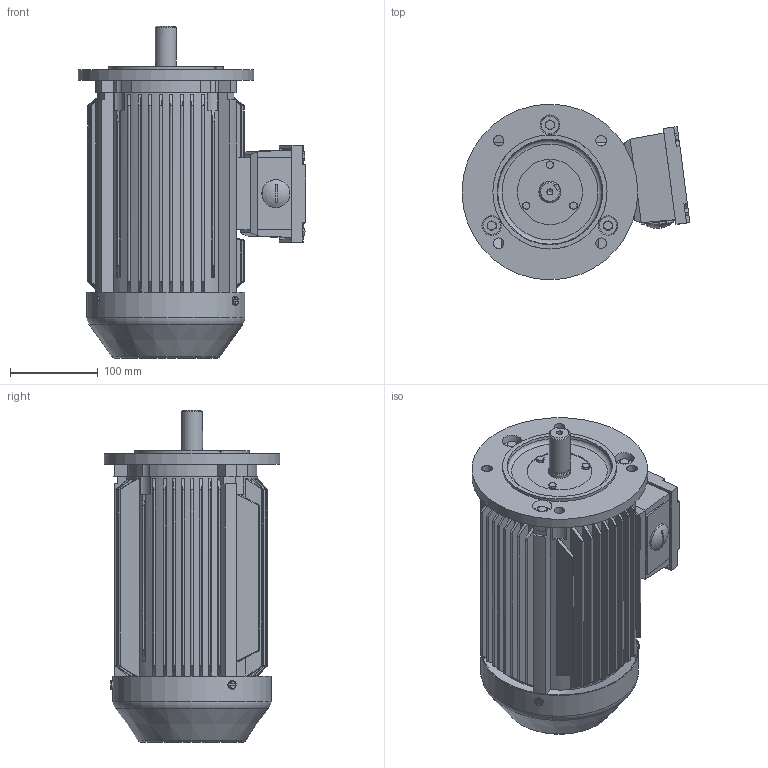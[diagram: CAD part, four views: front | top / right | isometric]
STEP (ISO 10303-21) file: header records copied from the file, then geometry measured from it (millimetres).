
FILE_DESCRIPTION(/* description */ (''),/* implementation_level */ '2;1');
FILE_NAME(/* name */ 'C:/Users/luigi_zhang/Desktop/temp/New folder/TE3-90L B5V1 .step',/* time_stamp */ '2020-06-22T08:58:50+10:00',/* author */ (''),/* organization */ (''),/* preprocessor_version */ 'ST-DEVELOPER v18.1',/* originating_system */ 'Autodesk Translation Framework v9.3.0.1241',/* authorisation */ '');
FILE_SCHEMA (('AUTOMOTIVE_DESIGN { 1 0 10303 214 3 1 1 }'));
Products named in the file (9): (Unsaved); YE3-90L B5 P24»ú×ù; TE3-90 Í¹Ôµ¶Ë¸Ç£¨
B5B35£©; YE3-90 P24ÖáÉì; hexagon head bolts--product grade c gb_GB_FASTENER_BOLT_HHBC M6X45-C; hexagon head bolts--product grade c gb_GB_FASTENER_BOLT_HHBC M5X25-N; TE3-90~100½ÓÏßºÐ; TE3-80~100 P24 ½ÓÏßºÐ×ù; TE3-80~100 ½ÓÏßºÐ¸Ç
Assembly tree (12 placements, depth 3):
  (Unsaved)
    YE3-90L B5 P24»ú×ù
    TE3-90 Í¹Ôµ¶Ë¸Ç£¨
B5B35£©
    YE3-90 P24ÖáÉì
    hexagon head bolts--product grade c gb_GB_FASTENER_BOLT_HHBC M6X45-C  x3
    hexagon head bolts--product grade c gb_GB_FASTENER_BOLT_HHBC M5X25-N  x3
    TE3-90~100½ÓÏßºÐ
      TE3-80~100 P24 ½ÓÏßºÐ×ù
      TE3-80~100 ½ÓÏßºÐ¸Ç
Bounding box: 259.37 x 200 x 378 mm (x, y, z)
Volume: 6556069.7 mm3; surface area: 653636.4 mm2
Topology: 12 solids, 12 shells, 1364 faces, 3479 edges, 2287 vertices
Faces by surface type: plane 750, cylinder 466, cone 77, bspline 60, torus 10, sphere 1
Full cylindrical faces by diameter (mm): 4.795 x4, 5 x3, 5.265 x4, 5.8 x7, 6 x3, 6.499 x1, 6.8 x1, 7 x3, 8 x1, 9.333 x4, 9.5 x6, 12 x4, 23.5 x1, 24 x1, 25 x2, 30 x1, 32 x1, 74 x1, 130 x1, 140 x1, 178 x1, 180 x1, 200 x1
Entity records: 117567 total; most frequent: CARTESIAN_POINT 85704, ORIENTED_EDGE 6650, DIRECTION 6477, EDGE_CURVE 3325, AXIS2_PLACEMENT_3D 2251, VERTEX_POINT 2195, LINE 1975, VECTOR 1975
